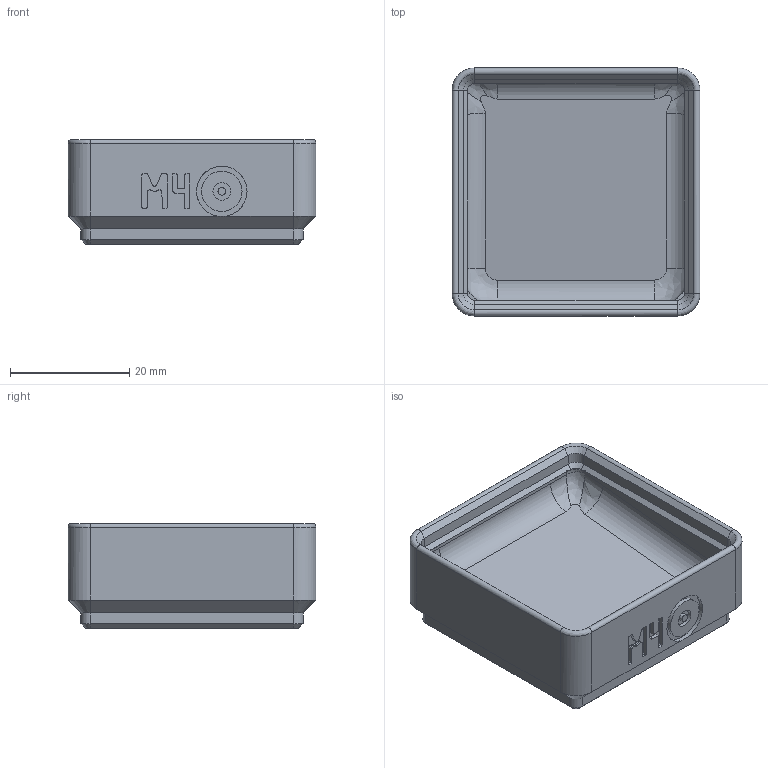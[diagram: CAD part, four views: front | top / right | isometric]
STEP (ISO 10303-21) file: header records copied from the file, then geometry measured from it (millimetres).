
FILE_DESCRIPTION(('Open CASCADE Model'),'2;1');
FILE_NAME('Open CASCADE Shape Model','2026-11-03T17:57:18',('Author'),( 'Open CASCADE'),'Open CASCADE STEP processor 8.0','build123d', 'Unknown');
FILE_SCHEMA(('AUTOMOTIVE_DESIGN { 1 0 10303 214 1 1 1 1 }'));
Length unit declared in the file: millimetre
Products named in the file (1): COMPOUND
Bounding box: 41.5 x 41.5 x 17.55 mm (x, y, z)
Volume: 13678.8 mm3; surface area: 7396.7 mm2
Topology: 1 solids, 1 shells, 316 faces, 839 edges, 530 vertices
Faces by surface type: plane 246, cylinder 38, cone 20, bspline 12
Full cylindrical faces by diameter (mm): 1.28 x1, 2.96 x1, 6.76 x1, 8.44 x1
Entity records: 21043 total; most frequent: CARTESIAN_POINT 5234, DIRECTION 2603, LINE 1836, VECTOR 1836, ORIENTED_EDGE 1678, PCURVE 1678, DEFINITIONAL_REPRESENTATION 1678, EDGE_CURVE 839
